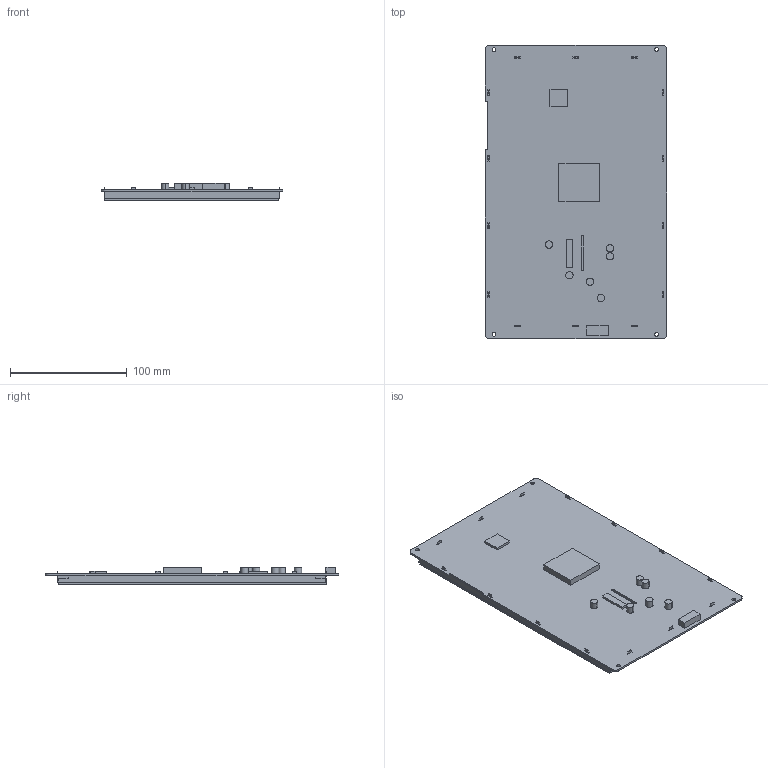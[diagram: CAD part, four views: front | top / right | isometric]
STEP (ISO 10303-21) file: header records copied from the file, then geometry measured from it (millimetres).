
FILE_DESCRIPTION((''),'2;1');
FILE_NAME('3D-DMG12800T101-01WTR','2021-10-22T',('Administrator'),(''),'PRO/ENGINEER BY PARAMETRIC TECHNOLOGY CORPORATION, 2011310','PRO/ENGINEER BY PARAMETRIC TECHNOLOGY CORPORATION, 2011310','');
FILE_SCHEMA(('CONFIG_CONTROL_DESIGN','SHAPE_APPEARANCE_LAYERS_GROUPS'));
Length unit declared in the file: millimetre
Products named in the file (1): 3D-DMG12800T101-01WTR
Bounding box: 155.32 x 251.56 x 15.1 mm (x, y, z)
Volume: 258677.7 mm3; surface area: 203052.8 mm2
Topology: 1 solids, 2 shells, 293 faces, 892 edges, 576 vertices
Faces by surface type: plane 267, cylinder 26
Entity records: 11801 total; most frequent: ORIENTED_EDGE 1784, CARTESIAN_POINT 1761, DIRECTION 1530, EDGE_CURVE 892, VECTOR 840, LINE 840, VERTEX_POINT 576, AXIS2_PLACEMENT_3D 345
